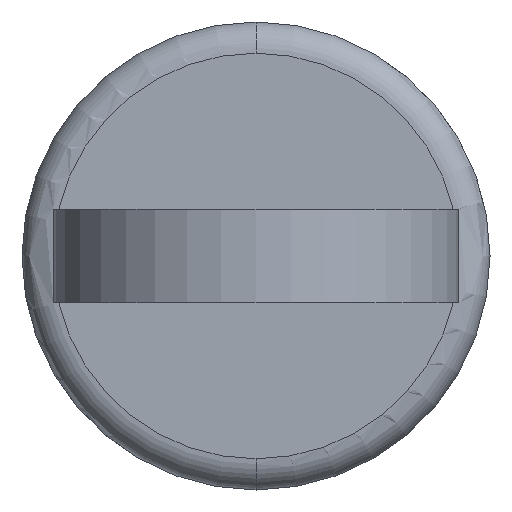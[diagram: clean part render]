
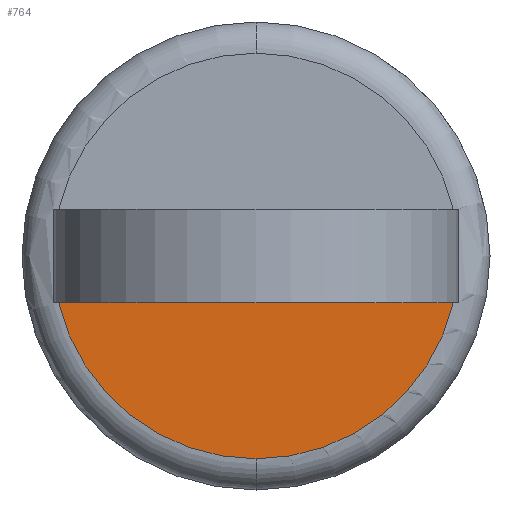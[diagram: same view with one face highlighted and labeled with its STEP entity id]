
A CAD part, front view. The second image highlights one B-rep face of the part: STEP entity #764.
In plain terms, the highlighted planar face has unit normal (0, -1, 0).
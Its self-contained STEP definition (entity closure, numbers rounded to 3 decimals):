
#20 = CARTESIAN_POINT ( 'NONE',  ( -6.5, 11., -1.5 ) ) ;
#74 = CARTESIAN_POINT ( 'NONE',  ( 0., 11., 0. ) ) ;
#162 = ORIENTED_EDGE ( 'NONE', *, *, #1109, .T. ) ;
#164 = AXIS2_PLACEMENT_3D ( 'NONE', #524, #519, #1176 ) ;
#166 = AXIS2_PLACEMENT_3D ( 'NONE', #74, #170, #262 ) ;
#170 = DIRECTION ( 'NONE',  ( 0., 1., 0. ) ) ;
#262 = DIRECTION ( 'NONE',  ( 0., 0., 1. ) ) ;
#295 = FACE_OUTER_BOUND ( 'NONE', #581, .T. ) ;
#349 = PLANE ( 'NONE',  #166 ) ;
#370 = ORIENTED_EDGE ( 'NONE', *, *, #725, .T. ) ;
#478 = DIRECTION ( 'NONE',  ( 0., 0., 1. ) ) ;
#503 = VECTOR ( 'NONE', #1119, 1000. ) ;
#519 = DIRECTION ( 'NONE',  ( 0., -1., 0. ) ) ;
#524 = CARTESIAN_POINT ( 'NONE',  ( 0., 11., 0. ) ) ;
#527 = ORIENTED_EDGE ( 'NONE', *, *, #1094, .T. ) ;
#562 = LINE ( 'NONE', #20, #503 ) ;
#581 = EDGE_LOOP ( 'NONE', ( #162, #370, #527 ) ) ;
#597 = VERTEX_POINT ( 'NONE', #693 ) ;
#650 = CARTESIAN_POINT ( 'NONE',  ( -6.325, 11., -1.5 ) ) ;
#693 = CARTESIAN_POINT ( 'NONE',  ( 6.325, 11., -1.5 ) ) ;
#725 = EDGE_CURVE ( 'NONE', #1135, #826, #1190, .T. ) ;
#764 = ADVANCED_FACE ( 'NONE', ( #295 ), #349, .F. ) ;
#806 = CARTESIAN_POINT ( 'NONE',  ( 0., 11., -6.5 ) ) ;
#826 = VERTEX_POINT ( 'NONE', #806 ) ;
#905 = AXIS2_PLACEMENT_3D ( 'NONE', #1036, #1124, #478 ) ;
#968 = CIRCLE ( 'NONE', #905, 6.5 ) ;
#1036 = CARTESIAN_POINT ( 'NONE',  ( 0., 11., 0. ) ) ;
#1094 = EDGE_CURVE ( 'NONE', #826, #597, #968, .T. ) ;
#1109 = EDGE_CURVE ( 'NONE', #597, #1135, #562, .T. ) ;
#1119 = DIRECTION ( 'NONE',  ( -1., 0., 0. ) ) ;
#1124 = DIRECTION ( 'NONE',  ( 0., -1., 0. ) ) ;
#1135 = VERTEX_POINT ( 'NONE', #650 ) ;
#1176 = DIRECTION ( 'NONE',  ( 0., 0., 1. ) ) ;
#1190 = CIRCLE ( 'NONE', #164, 6.5 ) ;
